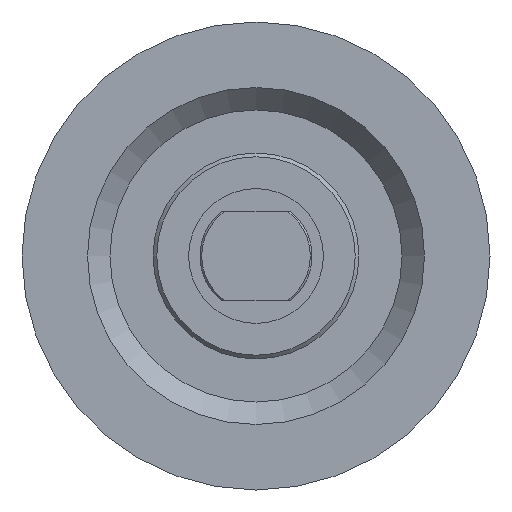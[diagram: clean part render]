
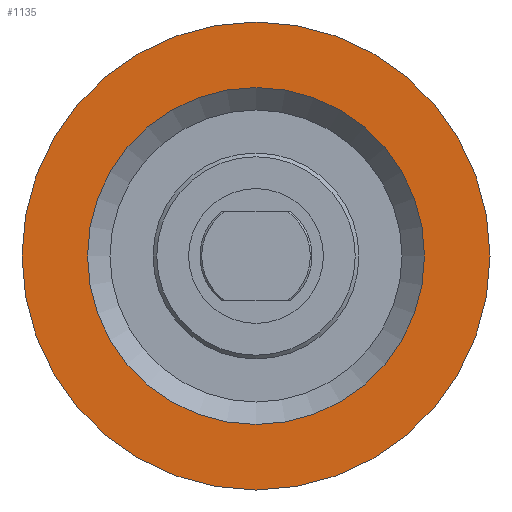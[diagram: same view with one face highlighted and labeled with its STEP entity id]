
A CAD part, left-side view. The second image highlights one B-rep face of the part: STEP entity #1135.
In plain terms, the highlighted planar face has unit normal (-1, 0, 0).
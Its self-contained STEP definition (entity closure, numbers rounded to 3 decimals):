
#102=FACE_BOUND('',#366,.T.);
#117=PLANE('',#1425);
#292=FACE_OUTER_BOUND('',#365,.T.);
#365=EDGE_LOOP('',(#883,#884));
#366=EDGE_LOOP('',(#885,#886));
#451=CIRCLE('',#1392,62.5);
#452=CIRCLE('',#1393,62.5);
#472=CIRCLE('',#1423,45.);
#473=CIRCLE('',#1424,45.);
#539=VERTEX_POINT('',#1993);
#540=VERTEX_POINT('',#1995);
#560=VERTEX_POINT('',#2052);
#561=VERTEX_POINT('',#2054);
#653=EDGE_CURVE('',#539,#540,#451,.T.);
#654=EDGE_CURVE('',#540,#539,#452,.T.);
#681=EDGE_CURVE('',#561,#560,#472,.T.);
#682=EDGE_CURVE('',#560,#561,#473,.T.);
#883=ORIENTED_EDGE('',*,*,#654,.F.);
#884=ORIENTED_EDGE('',*,*,#653,.F.);
#885=ORIENTED_EDGE('',*,*,#681,.T.);
#886=ORIENTED_EDGE('',*,*,#682,.T.);
#1135=ADVANCED_FACE('',(#292,#102),#117,.T.);
#1392=AXIS2_PLACEMENT_3D('',#1996,#1600,#1601);
#1393=AXIS2_PLACEMENT_3D('',#1997,#1602,#1603);
#1423=AXIS2_PLACEMENT_3D('',#2055,#1669,#1670);
#1424=AXIS2_PLACEMENT_3D('',#2056,#1671,#1672);
#1425=AXIS2_PLACEMENT_3D('',#2057,#1673,#1674);
#1600=DIRECTION('center_axis',(1.,0.,0.));
#1601=DIRECTION('ref_axis',(0.,0.,-1.));
#1602=DIRECTION('center_axis',(1.,0.,0.));
#1603=DIRECTION('ref_axis',(0.,0.,-1.));
#1669=DIRECTION('center_axis',(1.,0.,0.));
#1670=DIRECTION('ref_axis',(0.,0.,-1.));
#1671=DIRECTION('center_axis',(1.,0.,0.));
#1672=DIRECTION('ref_axis',(0.,0.,-1.));
#1673=DIRECTION('center_axis',(-1.,0.,0.));
#1674=DIRECTION('ref_axis',(0.,0.,1.));
#1993=CARTESIAN_POINT('',(-11.,-62.5,0.));
#1995=CARTESIAN_POINT('',(-11.,62.5,0.));
#1996=CARTESIAN_POINT('Origin',(-11.,0.,0.));
#1997=CARTESIAN_POINT('Origin',(-11.,0.,0.));
#2052=CARTESIAN_POINT('',(-11.,-45.,0.));
#2054=CARTESIAN_POINT('',(-11.,45.,0.));
#2055=CARTESIAN_POINT('Origin',(-11.,0.,0.));
#2056=CARTESIAN_POINT('Origin',(-11.,0.,0.));
#2057=CARTESIAN_POINT('Origin',(-11.,62.5,0.));
